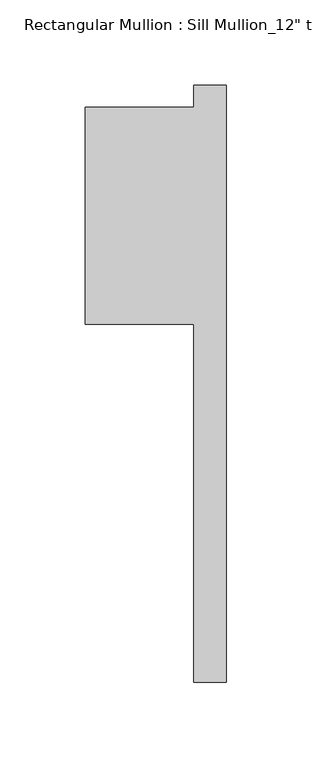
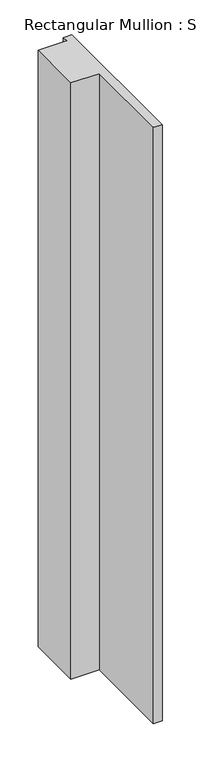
"""IFC4 building model written with IfcOpenShell, lengths in millimetres: member geometry."""

from ifc_helpers import new_model, si_unit, frame, origin, place, context, project, spatial, polyline, outline, extrude, source, transform, mapped, element, save


def member_ba1dda4e(model_context):
    return source(origin(), model_context, "Body", "SweptSolid", [
        extrude(outline(polyline([(-82.55, -50.8), (-82.55, 76.2), (-19.05, 76.2), (-19.05, 88.9), (0.0, 88.9), (0.0, -260.35), (-19.05, -260.35), (-19.05, -50.8), (-82.55, -50.8)])), frame((0.0, 0.0, -1409.6373293), z_axis=(0.0, 0.0, 1.0), x_axis=(1.0, 0.0, 0.0)), (0.0, 0.0, 1.0), 1409.6373293),
    ])


if __name__ == "__main__":
    model = new_model("IFC4")
    model_context = context("Model", 3, world=origin())
    ifc_project = project(units=[si_unit("LENGTHUNIT", "METRE", prefix="MILLI")], contexts=[model_context])
    site = spatial("IfcSite", under=ifc_project)
    building = spatial("IfcBuilding", under=site)
    placement = place(None, origin())
    member_shape = member_ba1dda4e(model_context)
    element("IfcMember", 1, ObjectType="Rectangular Mullion : Sill Mullion_12\" thick wall", at=placement, inside=building, context=model_context, shape_type="MappedRepresentation", body=[
        mapped(member_shape, transform((0.0, 0.0, 0.0), x_axis=(1.0, 0.0, 0.0), y_axis=(0.0, 1.0, 0.0), z_axis=(0.0, 0.0, 1.0))),
    ])
    save(model, "model.ifc")
